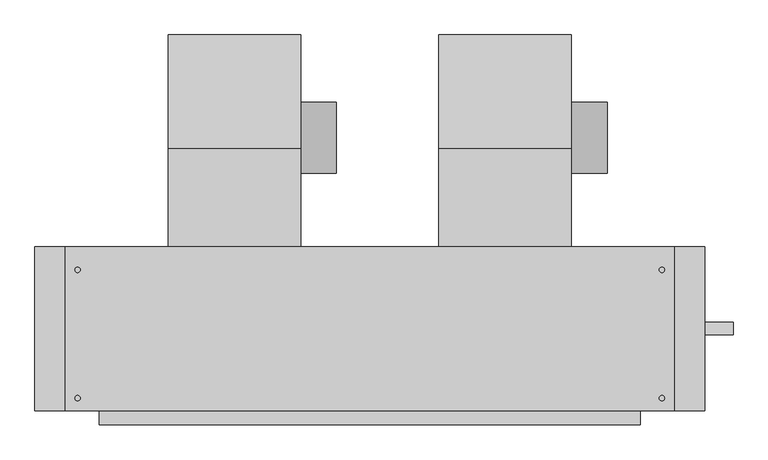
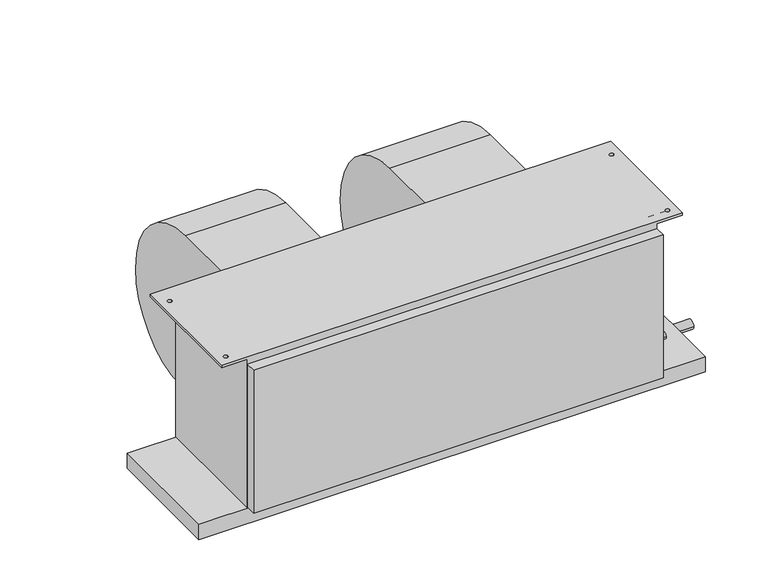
"""IFC4 building model written with IfcOpenShell, lengths in millimetres: proxy geometry, Concealed_High_Capacity_Horizontal_Fan_Coil_Unit_-_42DAA_-_CARRIER_-_4-Pipe_RH_2022 : Size 16 - 277v/60Hz/1Ph - 6/2 Coil."""

from ifc_helpers import new_model, si_unit, point, frame, frame_2d, origin, place, context, project, spatial, polyline, circle_curve, trimmed, segment, composite_curve, outline, extrude, source, transform, mapped, element, save
from ifc_brep_helpers import plane_surface, cylinder_surface, revolved_surface, advanced_brep


def mechanical_equipment_0c6f6ab9(model_context):
    return source(origin(), model_context, "Body", "SolidModel", [
        extrude(outline(composite_curve([segment(trimmed(circle_curve(frame_2d((117.8757598, -213.2397468)), 63.5), [point((181.3757598, -213.2397468))], [point((54.3757598, -213.2397468))], False, "CARTESIAN"), True, "CONTINUOUS"), segment(trimmed(circle_curve(frame_2d((117.8757598, -213.2397468)), 63.5), [point((54.3757598, -213.2397468))], [point((181.3757598, -213.2397468))], False, "CARTESIAN"), True, "CONTINUOUS")], self_intersect=False)), frame((156.337, 0.0, 0.0), z_axis=(1.0, 0.0, 0.0), x_axis=(0.0, 1.0, 0.0)), (0.0, 0.0, 1.0), 63.5),
        advanced_brep(
        [(-80.137, 301.3905957, -228.379602), (-80.137, 120.4976, -409.99664), (-80.137, -35.0266, -283.45638), (-80.137, -76.2, -283.45638), (-80.137, -76.2, -25.4), (-80.137, 98.8830093, -25.4), (156.337, 301.3905957, -228.379602), (156.337, 98.8830093, -25.4), (156.337, -76.2, -25.4), (156.337, -76.2, -283.45638), (156.337, -35.0266, -283.45638), (156.337, 120.497599, -409.9957839)],
        [
            (0, 1, circle_curve(frame((-80.137, 120.31726, -228.92258), z_axis=(-1.0, 0.0, 0.0), x_axis=(0.0, -1.0, 0.0)), 181.0741498)),
            (1, 2, circle_curve(frame((-80.137, 120.31726, -251.37364), z_axis=(-1.0, 0.0, 0.0), x_axis=(0.0, -1.0, 0.0)), 158.6222464)),
            (2, 3),
            (3, 4),
            (4, 5),
            (5, 0, circle_curve(frame((-80.137, 97.8662, -228.92258), z_axis=(-1.0, 0.0, 0.0), x_axis=(0.0, -1.0, 0.0)), 203.52512)),
            (6, 7, circle_curve(frame((156.337, 97.8662, -228.92258), z_axis=(1.0, 0.0, 0.0), x_axis=(0.0, -1.0, 0.0)), 203.52512)),
            (7, 8),
            (8, 9),
            (9, 10),
            (10, 11, circle_curve(frame((156.337, 120.31726, -251.37364), z_axis=(1.0, 0.0, 0.0), x_axis=(0.0, -1.0, 0.0)), 158.6222464)),
            (11, 6, circle_curve(frame((156.337, 120.31726, -228.92258), z_axis=(1.0, 0.0, 0.0), x_axis=(0.0, -1.0, 0.0)), 181.0741498)),
            (0, 6),
            (11, 1),
            (10, 2),
            (9, 3),
            (8, 4),
            (7, 5),
        ],
        [
            plane_surface(frame((-80.137, -60.7568898, -228.92258), z_axis=(-1.0, 0.0, 0.0), x_axis=(0.0, 0.0, 1.0))),
            plane_surface(frame((156.337, -60.7568898, -228.92258), z_axis=(1.0, 0.0, 0.0), x_axis=(0.0, 0.0, -1.0))),
            cylinder_surface(frame((156.337, 120.31726, -228.92258), z_axis=(-1.0, 0.0, 0.0), x_axis=(0.0, -1.0, 0.0)), 181.0741498),
            cylinder_surface(frame((156.337, 120.31726, -251.37364), z_axis=(-1.0, 0.0, 0.0), x_axis=(0.0, -1.0, 0.0)), 158.6222464),
            plane_surface(frame((-80.137, -35.0266, -283.45638), z_axis=(0.0, 0.0, -1.0), x_axis=(1.0, 0.0, 0.0))),
            plane_surface(frame((-80.137, -76.2, -283.45638), z_axis=(0.0, -1.0, 0.0), x_axis=(1.0, 0.0, 0.0))),
            plane_surface(frame((-80.137, -76.2, -25.4), z_axis=(0.0, 0.0, 1.0), x_axis=(1.0, 0.0, 0.0))),
            cylinder_surface(frame((156.337, 97.8662, -228.92258), z_axis=(-1.0, 0.0, 0.0), x_axis=(0.0, -1.0, 0.0)), 203.52512),
        ],
        [
            (0, [[1, 2, 3, 4, 5, 6]]),
            (1, [[7, 8, 9, 10, 11, 12]]),
            (2, [[-1, 13, -12, 14]]),
            (3, [[-2, -14, -11, 15]]),
            (4, [[-3, -15, -10, 16]]),
            (5, [[-4, -16, -9, 17]]),
            (6, [[-5, -17, -8, 18]]),
            (7, [[-6, -18, -7, -13]]),
        ],
    ),
        extrude(outline(composite_curve([segment(trimmed(circle_curve(frame_2d((117.8757598, -213.2397468)), 63.5), [point((181.3757598, -213.2397468))], [point((54.3757598, -213.2397468))], False, "CARTESIAN"), True, "CONTINUOUS"), segment(trimmed(circle_curve(frame_2d((117.8757598, -213.2397468)), 63.5), [point((54.3757598, -213.2397468))], [point((181.3757598, -213.2397468))], False, "CARTESIAN"), True, "CONTINUOUS")], self_intersect=False)), frame((638.937, 0.0, 0.0), z_axis=(1.0, 0.0, 0.0), x_axis=(0.0, 1.0, 0.0)), (0.0, 0.0, 1.0), 63.5),
        advanced_brep(
        [(402.463, 301.3905957, -228.379602), (402.463, 120.4976, -409.99664), (402.463, -35.0266, -283.45638), (402.463, -76.2, -283.45638), (402.463, -76.2, -25.4), (402.463, 98.8830093, -25.4), (638.937, 301.3905957, -228.379602), (638.937, 98.8830093, -25.4), (638.937, -76.2, -25.4), (638.937, -76.2, -283.45638), (638.937, -35.0266, -283.45638), (638.937, 120.497599, -409.9957839)],
        [
            (0, 1, circle_curve(frame((402.463, 120.31726, -228.92258), z_axis=(-1.0, 0.0, 0.0), x_axis=(0.0, -1.0, 0.0)), 181.0741498)),
            (1, 2, circle_curve(frame((402.463, 120.31726, -251.37364), z_axis=(-1.0, 0.0, 0.0), x_axis=(0.0, -1.0, 0.0)), 158.6222464)),
            (2, 3),
            (3, 4),
            (4, 5),
            (5, 0, circle_curve(frame((402.463, 97.8662, -228.92258), z_axis=(-1.0, 0.0, 0.0), x_axis=(0.0, -1.0, 0.0)), 203.52512)),
            (6, 7, circle_curve(frame((638.937, 97.8662, -228.92258), z_axis=(1.0, 0.0, 0.0), x_axis=(0.0, -1.0, 0.0)), 203.52512)),
            (7, 8),
            (8, 9),
            (9, 10),
            (10, 11, circle_curve(frame((638.937, 120.31726, -251.37364), z_axis=(1.0, 0.0, 0.0), x_axis=(0.0, -1.0, 0.0)), 158.6222464)),
            (11, 6, circle_curve(frame((638.937, 120.31726, -228.92258), z_axis=(1.0, 0.0, 0.0), x_axis=(0.0, -1.0, 0.0)), 181.0741498)),
            (0, 6),
            (11, 1),
            (10, 2),
            (9, 3),
            (8, 4),
            (7, 5),
        ],
        [
            plane_surface(frame((402.463, -60.7568898, -228.92258), z_axis=(-1.0, 0.0, 0.0), x_axis=(0.0, 0.0, 1.0))),
            plane_surface(frame((638.937, -60.7568898, -228.92258), z_axis=(1.0, 0.0, 0.0), x_axis=(0.0, 0.0, -1.0))),
            cylinder_surface(frame((638.937, 120.31726, -228.92258), z_axis=(-1.0, 0.0, 0.0), x_axis=(0.0, -1.0, 0.0)), 181.0741498),
            cylinder_surface(frame((638.937, 120.31726, -251.37364), z_axis=(-1.0, 0.0, 0.0), x_axis=(0.0, -1.0, 0.0)), 158.6222464),
            plane_surface(frame((402.463, -35.0266, -283.45638), z_axis=(0.0, 0.0, -1.0), x_axis=(1.0, 0.0, 0.0))),
            plane_surface(frame((402.463, -76.2, -283.45638), z_axis=(0.0, -1.0, 0.0), x_axis=(1.0, 0.0, 0.0))),
            plane_surface(frame((402.463, -76.2, -25.4), z_axis=(0.0, 0.0, 1.0), x_axis=(1.0, 0.0, 0.0))),
            cylinder_surface(frame((638.937, 97.8662, -228.92258), z_axis=(-1.0, 0.0, 0.0), x_axis=(0.0, -1.0, 0.0)), 203.52512),
        ],
        [
            (0, [[1, 2, 3, 4, 5, 6]]),
            (1, [[7, 8, 9, 10, 11, 12]]),
            (2, [[-1, 13, -12, 14]]),
            (3, [[-2, -14, -11, 15]]),
            (4, [[-3, -15, -10, 16]]),
            (5, [[-4, -16, -9, 17]]),
            (6, [[-5, -17, -8, 18]]),
            (7, [[-6, -18, -7, -13]]),
        ],
    ),
        extrude(outline(polyline([(876.3, -76.2), (876.3, -368.3), (-317.5, -368.3), (-317.5, -76.2), (876.3, -76.2)])), frame((0.0, 0.0, -415.925), z_axis=(0.0, 0.0, 1.0), x_axis=(1.0, 0.0, 0.0)), (0.0, 0.0, 1.0), 38.1),
        extrude(outline(polyline([(762.0, -393.7), (-203.2, -393.7), (-203.2, -368.3), (762.0, -368.3), (762.0, -393.7)])), frame((0.0, 0.0, -374.65), z_axis=(0.0, 0.0, 1.0), x_axis=(1.0, 0.0, 0.0)), (0.0, 0.0, 1.0), 355.6),
        extrude(outline(composite_curve([segment(trimmed(circle_curve(frame_2d((-222.25, -403.225)), 11.1125), [point((-233.3625, -403.225))], [point((-211.1375, -403.225))], False, "CARTESIAN"), True, "CONTINUOUS"), segment(trimmed(circle_curve(frame_2d((-222.25, -403.225)), 11.1125), [point((-211.1375, -403.225))], [point((-233.3625, -403.225))], False, "CARTESIAN"), True, "CONTINUOUS")], self_intersect=False)), frame((876.3, 0.0, 0.0), z_axis=(1.0, 0.0, 0.0), x_axis=(0.0, 1.0, 0.0)), (0.0, 0.0, 1.0), 50.8),
        extrude(outline(composite_curve([segment(trimmed(circle_curve(frame_2d((-187.325, -122.2375)), 14.2875), [point((-173.0375, -122.2375))], [point((-201.6125, -122.2375))], False, "CARTESIAN"), True, "CONTINUOUS"), segment(trimmed(circle_curve(frame_2d((-187.325, -122.2375)), 14.2875), [point((-201.6125, -122.2375))], [point((-173.0375, -122.2375))], False, "CARTESIAN"), True, "CONTINUOUS")], self_intersect=False)), frame((762.0, 0.0, 0.0), z_axis=(1.0, 0.0, 0.0), x_axis=(0.0, 1.0, 0.0)), (0.0, 0.0, 1.0), 50.8),
        extrude(outline(composite_curve([segment(trimmed(circle_curve(frame_2d((-269.875, -265.1125)), 14.2875), [point((-255.5875, -265.1125))], [point((-284.1625, -265.1125))], False, "CARTESIAN"), True, "CONTINUOUS"), segment(trimmed(circle_curve(frame_2d((-269.875, -265.1125)), 14.2875), [point((-284.1625, -265.1125))], [point((-255.5875, -265.1125))], False, "CARTESIAN"), True, "CONTINUOUS")], self_intersect=False)), frame((762.0, 0.0, 0.0), z_axis=(1.0, 0.0, 0.0), x_axis=(0.0, 1.0, 0.0)), (0.0, 0.0, 1.0), 50.8),
        extrude(outline(composite_curve([segment(trimmed(circle_curve(frame_2d((-311.15, -19.05)), 7.9375), [point((-303.2125, -19.05))], [point((-319.0875, -19.05))], False, "CARTESIAN"), True, "CONTINUOUS"), segment(trimmed(circle_curve(frame_2d((-311.15, -19.05)), 7.9375), [point((-319.0875, -19.05))], [point((-303.2125, -19.05))], False, "CARTESIAN"), True, "CONTINUOUS")], self_intersect=False)), frame((762.0, 0.0, 0.0), z_axis=(1.0, 0.0, 0.0), x_axis=(0.0, 1.0, 0.0)), (0.0, 0.0, 1.0), 50.8),
        extrude(outline(composite_curve([segment(trimmed(circle_curve(frame_2d((-311.15, -336.55)), 7.9375), [point((-303.2125, -336.55))], [point((-319.0875, -336.55))], False, "CARTESIAN"), True, "CONTINUOUS"), segment(trimmed(circle_curve(frame_2d((-311.15, -336.55)), 7.9375), [point((-319.0875, -336.55))], [point((-303.2125, -336.55))], False, "CARTESIAN"), True, "CONTINUOUS")], self_intersect=False)), frame((762.0, 0.0, 0.0), z_axis=(1.0, 0.0, 0.0), x_axis=(0.0, 1.0, 0.0)), (0.0, 0.0, 1.0), 50.8),
        advanced_brep(
        [(762.0, -76.2, -377.825), (762.0, -368.3, -377.825), (-203.2, -368.3, -377.825), (-203.2, -76.2, -377.825), (-203.2, -368.3, -6.35), (-203.2, -76.2, -6.35), (762.0, -76.2, -6.35), (762.0, -368.3, -6.35), (-263.525, -76.2, 0.0), (-263.525, -368.3, 0.0), (822.325, -368.3, 0.0), (822.325, -76.2, 0.0), (-236.5375, -117.475, 0.0), (-246.0625, -117.475, 0.0), (-236.5375, -346.075, 0.0), (-246.0625, -346.075, 0.0), (804.8625, -117.475, 0.0), (795.3375, -117.475, 0.0), (804.8625, -346.075, 0.0), (795.3375, -346.075, 0.0), (-263.525, -76.2, -6.35), (-263.525, -368.3, -6.35), (-246.0625, -117.475, -6.35), (-236.5375, -117.475, -6.35), (-246.0625, -346.075, -6.35), (-236.5375, -346.075, -6.35), (822.325, -76.2, -6.35), (822.325, -368.3, -6.35), (795.3375, -117.475, -6.35), (804.8625, -117.475, -6.35), (795.3375, -346.075, -6.35), (804.8625, -346.075, -6.35)],
        [
            (0, 1),
            (1, 2),
            (2, 3),
            (3, 0),
            (2, 4),
            (4, 5),
            (5, 3),
            (0, 6),
            (6, 7),
            (7, 1),
            (8, 9),
            (9, 10),
            (10, 11),
            (11, 8),
            (12, 13, circle_curve(frame((-241.3, -117.475, 0.0), z_axis=(0.0, 0.0, -1.0), x_axis=(1.0, 0.0, 0.0)), 4.7625)),
            (13, 12, circle_curve(frame((-241.3, -117.475, 0.0), z_axis=(0.0, 0.0, -1.0), x_axis=(1.0, 0.0, 0.0)), 4.7625)),
            (14, 15, circle_curve(frame((-241.3, -346.075, 0.0), z_axis=(0.0, 0.0, -1.0), x_axis=(1.0, 0.0, 0.0)), 4.7625)),
            (15, 14, circle_curve(frame((-241.3, -346.075, 0.0), z_axis=(0.0, 0.0, -1.0), x_axis=(1.0, 0.0, 0.0)), 4.7625)),
            (16, 17, circle_curve(frame((800.1, -117.475, 0.0), z_axis=(0.0, 0.0, -1.0), x_axis=(1.0, 0.0, 0.0)), 4.7625)),
            (17, 16, circle_curve(frame((800.1, -117.475, 0.0), z_axis=(0.0, 0.0, -1.0), x_axis=(1.0, 0.0, 0.0)), 4.7625)),
            (18, 19, circle_curve(frame((800.1, -346.075, 0.0), z_axis=(0.0, 0.0, -1.0), x_axis=(1.0, 0.0, 0.0)), 4.7625)),
            (19, 18, circle_curve(frame((800.1, -346.075, 0.0), z_axis=(0.0, 0.0, -1.0), x_axis=(1.0, 0.0, 0.0)), 4.7625)),
            (20, 5),
            (4, 21),
            (21, 20),
            (22, 23, circle_curve(frame((-241.3, -117.475, -6.35), z_axis=(0.0, 0.0, 1.0), x_axis=(1.0, 0.0, 0.0)), 4.7625)),
            (23, 22, circle_curve(frame((-241.3, -117.475, -6.35), z_axis=(0.0, 0.0, 1.0), x_axis=(1.0, 0.0, 0.0)), 4.7625)),
            (24, 25, circle_curve(frame((-241.3, -346.075, -6.35), z_axis=(0.0, 0.0, 1.0), x_axis=(1.0, 0.0, 0.0)), 4.7625)),
            (25, 24, circle_curve(frame((-241.3, -346.075, -6.35), z_axis=(0.0, 0.0, 1.0), x_axis=(1.0, 0.0, 0.0)), 4.7625)),
            (26, 27),
            (27, 7),
            (6, 26),
            (28, 29, circle_curve(frame((800.1, -117.475, -6.35), z_axis=(0.0, 0.0, 1.0), x_axis=(1.0, 0.0, 0.0)), 4.7625)),
            (29, 28, circle_curve(frame((800.1, -117.475, -6.35), z_axis=(0.0, 0.0, 1.0), x_axis=(1.0, 0.0, 0.0)), 4.7625)),
            (30, 31, circle_curve(frame((800.1, -346.075, -6.35), z_axis=(0.0, 0.0, 1.0), x_axis=(1.0, 0.0, 0.0)), 4.7625)),
            (31, 30, circle_curve(frame((800.1, -346.075, -6.35), z_axis=(0.0, 0.0, 1.0), x_axis=(1.0, 0.0, 0.0)), 4.7625)),
            (8, 20),
            (21, 9),
            (27, 10),
            (11, 26),
            (12, 23),
            (22, 13),
            (14, 25),
            (24, 15),
            (16, 29),
            (28, 17),
            (18, 31),
            (30, 19),
        ],
        [
            plane_surface(frame((-203.2, -76.2, -377.825), z_axis=(0.0, 0.0, -1.0), x_axis=(1.0, 0.0, 0.0))),
            plane_surface(frame((-203.2, -76.2, 0.0), z_axis=(-1.0, 0.0, 0.0), x_axis=(0.0, 0.0, -1.0))),
            plane_surface(frame((762.0, -368.3, 0.0), z_axis=(1.0, 0.0, 0.0), x_axis=(0.0, 0.0, -1.0))),
            plane_surface(frame((-263.525, -76.2, 0.0), z_axis=(0.0, 0.0, 1.0), x_axis=(0.0, -1.0, 0.0))),
            plane_surface(frame((-263.525, -76.2, -6.35), z_axis=(0.0, 0.0, -1.0), x_axis=(0.0, 1.0, 0.0))),
            plane_surface(frame((-263.525, -76.2, 0.0), z_axis=(-1.0, 0.0, 0.0), x_axis=(0.0, 0.0, -1.0))),
            plane_surface(frame((-263.525, -368.3, 0.0), z_axis=(0.0, -1.0, 0.0), x_axis=(0.0, 0.0, -1.0))),
            plane_surface(frame((-203.2, -76.2, 0.0), z_axis=(0.0, 1.0, 0.0), x_axis=(0.0, 0.0, -1.0))),
            plane_surface(frame((822.325, -368.3, 0.0), z_axis=(1.0, 0.0, 0.0), x_axis=(0.0, 0.0, -1.0))),
            revolved_surface(polyline([(-236.53750000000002, -117.475, 0.0), (-236.53750000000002, -117.475, -6.35)]), (-241.3, -117.475, -6.35), (0.0, 0.0, 1.0)),
            revolved_surface(polyline([(-236.53750000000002, -346.075, 0.0), (-236.53750000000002, -346.075, -6.35)]), (-241.3, -346.075, 0.0), (0.0, 0.0, 1.0)),
            revolved_surface(polyline([(804.8625000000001, -117.475, 0.0), (804.8625000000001, -117.475, -6.35)]), (800.1, -117.475, 0.0), (0.0, 0.0, 1.0)),
            revolved_surface(polyline([(804.8625000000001, -346.075, 0.0), (804.8625000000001, -346.075, -6.35)]), (800.1, -346.075, 0.0), (0.0, 0.0, 1.0)),
        ],
        [
            (0, [[1, 2, 3, 4]]),
            (1, [[-3, 5, 6, 7]]),
            (2, [[-1, 8, 9, 10]]),
            (3, [[11, 12, 13, 14], [15, 16], [17, 18], [19, 20], [21, 22]]),
            (4, [[23, -6, 24, 25], [26, 27], [28, 29]]),
            (4, [[30, 31, -9, 32], [33, 34], [35, 36]]),
            (5, [[-11, 37, -25, 38]]),
            (6, [[-12, -38, -24, -5, -2, -10, -31, 39]]),
            (7, [[-14, 40, -32, -8, -4, -7, -23, -37]]),
            (8, [[-13, -39, -30, -40]]),
            (9, [[41, -26, 42, -15]]),
            (9, [[-41, -16, -42, -27]]),
            (10, [[43, -28, 44, -17]]),
            (10, [[-43, -18, -44, -29]]),
            (11, [[45, -33, 46, -19]]),
            (11, [[-45, -20, -46, -34]]),
            (12, [[47, -35, 48, -21]]),
            (12, [[-47, -22, -48, -36]]),
        ],
    ),
    ])


if __name__ == "__main__":
    model = new_model("IFC4")
    model_context = context("Model", 3, world=origin())
    ifc_project = project(units=[si_unit("LENGTHUNIT", "METRE", prefix="MILLI")], contexts=[model_context])
    site = spatial("IfcSite", under=ifc_project)
    building = spatial("IfcBuilding", under=site)
    placement = place(None, origin())
    mechanical_equipment_shape = mechanical_equipment_0c6f6ab9(model_context)
    element("IfcBuildingElementProxy", 1, Name="Concealed_High_Capacity_Horizontal_Fan_Coil_Unit_-_42DAA_-_CARRIER_-_4-Pipe_RH_2022 : Size 16 - 277v/60Hz/1Ph - 6/2 Coil", ObjectType="Concealed_High_Capacity_Horizontal_Fan_Coil_Unit_-_42DAA_-_CARRIER_-_4-Pipe_RH_2022 : Size 16 - 277v/60Hz/1Ph - 6/2 Coil", at=placement, inside=building, context=model_context, shape_type="MappedRepresentation", body=[
        mapped(mechanical_equipment_shape, transform((0.0, 0.0, 0.0), x_axis=(1.0, 0.0, 0.0), y_axis=(0.0, 1.0, 0.0), z_axis=(0.0, 0.0, 1.0))),
    ])
    save(model, "model.ifc")
